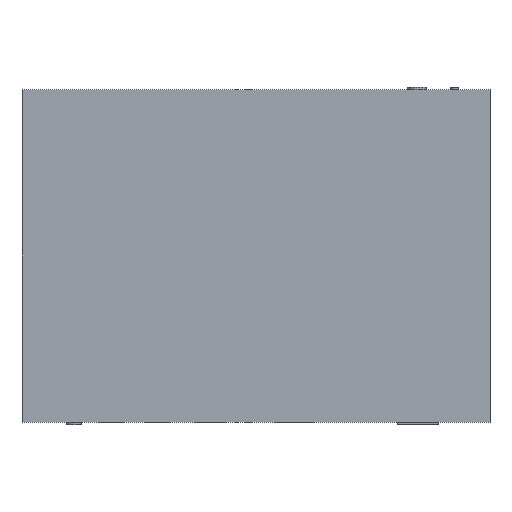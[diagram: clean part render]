
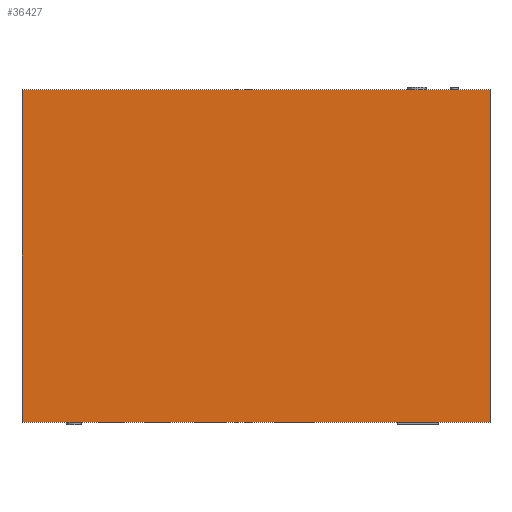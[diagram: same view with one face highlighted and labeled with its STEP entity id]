
A CAD part, front view. The second image highlights one B-rep face of the part: STEP entity #36427.
In plain terms, the highlighted planar face has unit normal (0, -1, 0).
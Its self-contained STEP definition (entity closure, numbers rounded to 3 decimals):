
#38 = ORIENTED_EDGE ( 'NONE', *, *, #2074, .T. ) ;
#1193 = DIRECTION ( 'NONE',  ( 1., 0., 0. ) ) ;
#1717 = DIRECTION ( 'NONE',  ( 1., 0., 0. ) ) ;
#1982 = CARTESIAN_POINT ( 'NONE',  ( 92.5, -15.25, -131.5 ) ) ;
#2074 = EDGE_CURVE ( 'NONE', #19632, #4101, #28534, .T. ) ;
#4101 = VERTEX_POINT ( 'NONE', #23920 ) ;
#5789 = VECTOR ( 'NONE', #28292, 1000. ) ;
#6075 = LINE ( 'NONE', #40391, #11592 ) ;
#6321 = DIRECTION ( 'NONE',  ( 1., 0., 0. ) ) ;
#9057 = EDGE_CURVE ( 'NONE', #33856, #19632, #13699, .T. ) ;
#10294 = ORIENTED_EDGE ( 'NONE', *, *, #9057, .T. ) ;
#11592 = VECTOR ( 'NONE', #6321, 1000. ) ;
#11937 = EDGE_CURVE ( 'NONE', #33856, #30622, #28216, .T. ) ;
#13477 = PLANE ( 'NONE',  #26591 ) ;
#13699 = LINE ( 'NONE', #28989, #40524 ) ;
#14002 = EDGE_LOOP ( 'NONE', ( #15980, #44115, #10294, #38 ) ) ;
#15052 = CARTESIAN_POINT ( 'NONE',  ( 92.5, -15.25, -131.5 ) ) ;
#15980 = ORIENTED_EDGE ( 'NONE', *, *, #17327, .F. ) ;
#17327 = EDGE_CURVE ( 'NONE', #30622, #4101, #6075, .T. ) ;
#17473 = DIRECTION ( 'NONE',  ( 0., -1., 0. ) ) ;
#19517 = CARTESIAN_POINT ( 'NONE',  ( -92.5, -15.25, -131.5 ) ) ;
#19632 = VERTEX_POINT ( 'NONE', #15052 ) ;
#23920 = CARTESIAN_POINT ( 'NONE',  ( 92.5, -15.25, 0. ) ) ;
#26591 = AXIS2_PLACEMENT_3D ( 'NONE', #28507, #17473, #1717 ) ;
#27496 = DIRECTION ( 'NONE',  ( 0., 0., 1. ) ) ;
#28216 = LINE ( 'NONE', #43482, #42339 ) ;
#28292 = DIRECTION ( 'NONE',  ( 0., 0., 1. ) ) ;
#28507 = CARTESIAN_POINT ( 'NONE',  ( -92.5, -15.25, -131.5 ) ) ;
#28534 = LINE ( 'NONE', #1982, #5789 ) ;
#28989 = CARTESIAN_POINT ( 'NONE',  ( -92.5, -15.25, -131.5 ) ) ;
#29060 = CARTESIAN_POINT ( 'NONE',  ( -92.5, -15.25, 0. ) ) ;
#29500 = FACE_OUTER_BOUND ( 'NONE', #14002, .T. ) ;
#30622 = VERTEX_POINT ( 'NONE', #29060 ) ;
#33856 = VERTEX_POINT ( 'NONE', #19517 ) ;
#36427 = ADVANCED_FACE ( 'Face17', ( #29500 ), #13477, .T. ) ;
#40391 = CARTESIAN_POINT ( 'NONE',  ( -92.5, -15.25, 0. ) ) ;
#40524 = VECTOR ( 'NONE', #1193, 1000. ) ;
#42339 = VECTOR ( 'NONE', #27496, 1000. ) ;
#43482 = CARTESIAN_POINT ( 'NONE',  ( -92.5, -15.25, -131.5 ) ) ;
#44115 = ORIENTED_EDGE ( 'NONE', *, *, #11937, .F. ) ;
